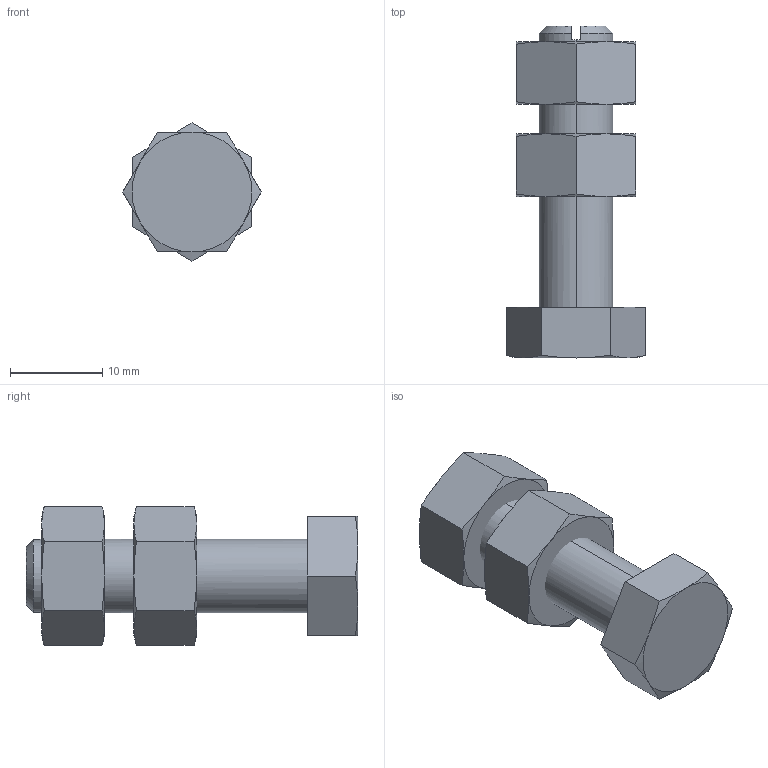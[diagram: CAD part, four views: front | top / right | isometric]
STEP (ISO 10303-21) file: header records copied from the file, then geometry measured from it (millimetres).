
FILE_DESCRIPTION (( 'STEP AP214' ), '1' );
FILE_NAME ('807-M8-36-A-NI.step', '2023-08-23T10:55:19', ( '' ), ( '' ), 'SwSTEP 2.0', 'SolidWorks 2022', '' );
FILE_SCHEMA (( 'AUTOMOTIVE_DESIGN' ));
Length unit declared in the file: millimetre
Products named in the file (3): WB4032^WB807_M8; 807-M8-36-A-NI; WB807_Andrückschraube^WB807_M8-36-A
Assembly tree (3 placements, depth 2):
  807-M8-36-A-NI
    WB807_Andrückschraube^WB807_M8-36-A
    WB4032^WB807_M8  x2
Bounding box: 15.01 x 36 x 15.01 mm (x, y, z)
Volume: 3838.8 mm3; surface area: 2639.4 mm2
Topology: 3 solids, 3 shells, 67 faces, 150 edges, 90 vertices
Faces by surface type: cone 32, plane 29, cylinder 6
Entity records: 1682 total; most frequent: CARTESIAN_POINT 347, ORIENTED_EDGE 204, DIRECTION 196, EDGE_CURVE 102, AXIS2_PLACEMENT_3D 83, VERTEX_POINT 62, EDGE_LOOP 48, ADVANCED_FACE 45
